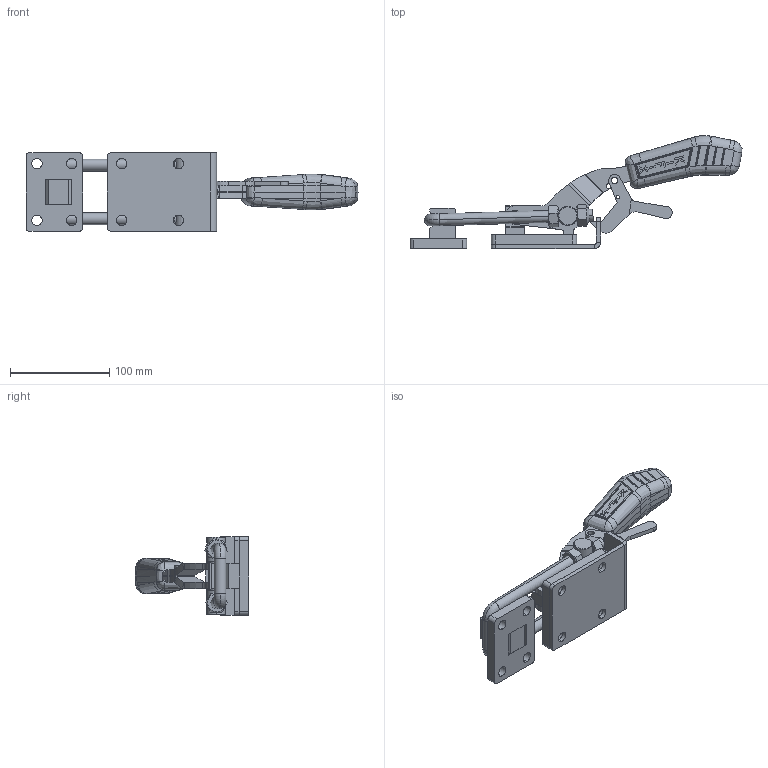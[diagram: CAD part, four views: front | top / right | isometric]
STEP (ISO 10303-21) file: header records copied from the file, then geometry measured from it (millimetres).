
FILE_DESCRIPTION (( 'STEP AP203' ), '1' );
FILE_NAME ('KF-385 TR.STEP', '2018-06-19T14:17:31', ( 'Ricardo' ), ( '' ), 'SwSTEP 2.0', 'SolidWorks 2018', '' );
FILE_SCHEMA (( 'CONFIG_CONTROL_DESIGN' ));
Length unit declared in the file: millimetre
Products named in the file (15): 02.10051; 07.60003; 15.10084; 06.50054; 15.10085; 02.10055; 01.10248_Direita; 18.10026; 01.10248_Esquerda; KF-385 TR; 16.20098; 03.20070; 11.50024; 02.10018; 11.50004
Assembly tree (16 placements, depth 2):
  KF-385 TR
    02.10018
    02.10051
    15.10084
    15.10085
    01.10248_Direita
    01.10248_Esquerda
    16.20098
    03.20070
    11.50024  x2
    11.50004  x2
    07.60003
    06.50054
    02.10055
    18.10026
Bounding box: 334.66 x 113.91 x 79.5 mm (x, y, z)
Volume: 404153 mm3; surface area: 138613.5 mm2
Topology: 16 solids, 16 shells, 742 faces, 1909 edges, 1207 vertices
Faces by surface type: plane 262, cylinder 238, bspline 151, sphere 48, cone 36, torus 7
Entity records: 27203 total; most frequent: CARTESIAN_POINT 9751, ORIENTED_EDGE 3610, DIRECTION 2844, EDGE_CURVE 1805, VERTEX_POINT 1145, AXIS2_PLACEMENT_3D 1092, EDGE_LOOP 792, FACE_OUTER_BOUND 708
